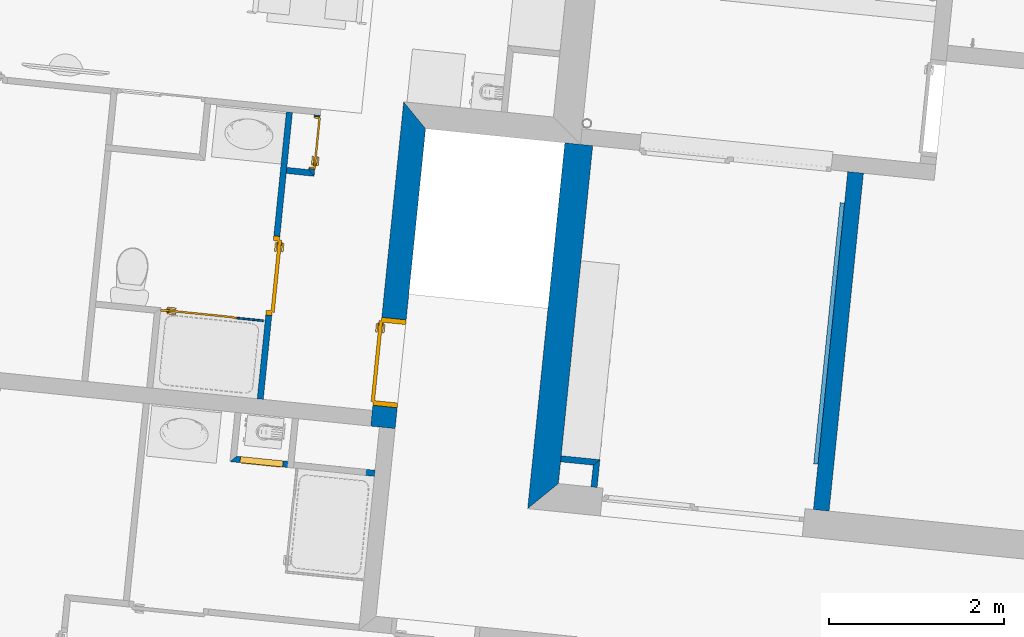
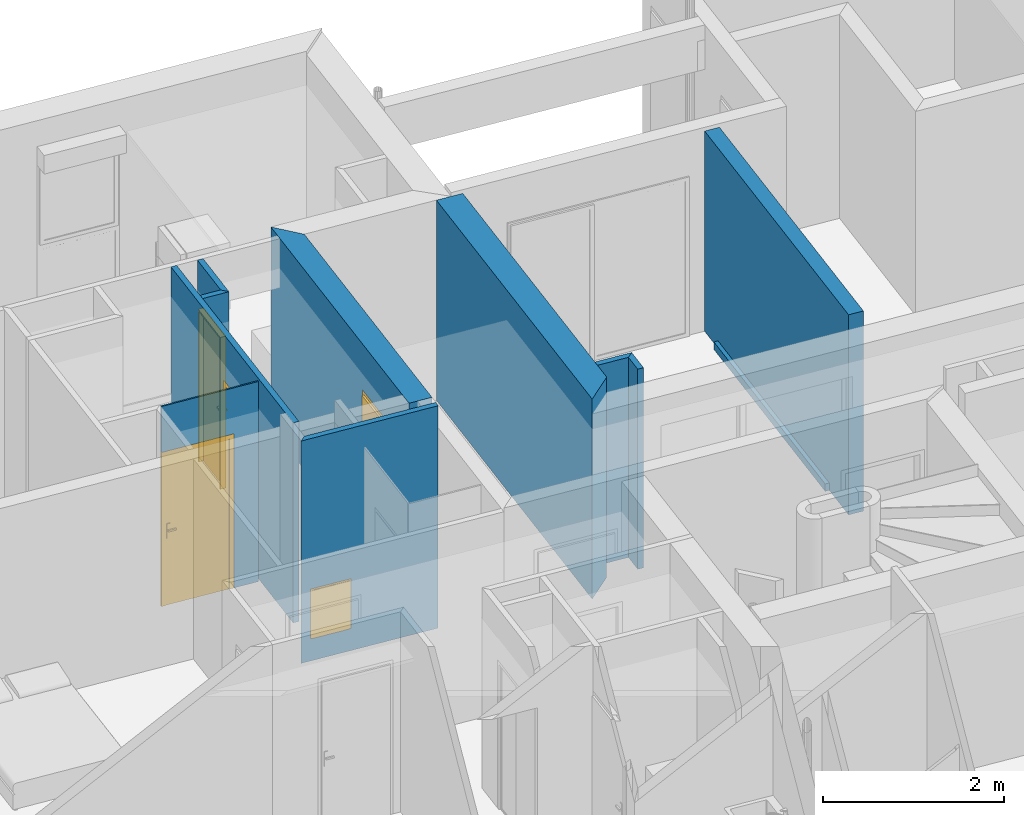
# One storey, part 70 of 171: 11 walls, 5 doors, 5 openings.
"""IFC2X3 building model written with IfcOpenShell, lengths in millimetres."""

from ifc_helpers import new_model, entity, si_unit, converted_unit, derived_unit, money_unit, direction, frame, origin_with_axes, origin_2d_with_axis, place, context, subcontext, project, spatial, polyline, rectangle, outline, extrude, faceted_brep, source, transform, mapped, material, layer, layer_set, layer_usage, type_object, element, fill, save


model = new_model("IFC2X3")

# Units and contexts
model_context = context("Model", 3, precision=0.01, world=origin_with_axes(), true_north=direction((0.0, 1.0)))
body_context = subcontext(model_context, "Body", "Model", "MODEL_VIEW")
ifc_project = project(units=[si_unit("LENGTHUNIT", "METRE", prefix="MILLI"), si_unit("AREAUNIT", "SQUARE_METRE"), si_unit("VOLUMEUNIT", "CUBIC_METRE"), converted_unit("PLANEANGLEUNIT", "DEGREE", entity("IfcPlaneAngleMeasure", 0.0174532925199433), si_unit("PLANEANGLEUNIT", "RADIAN"), dimensions=[0, 0, 0, 0, 0, 0, 0]), money_unit("USD"), converted_unit("TIMEUNIT", "Year", entity("IfcTimeMeasure", 31557600.0), si_unit("TIMEUNIT", "SECOND"), dimensions=[0, 0, 1, 0, 0, 0, 0]), si_unit("MASSUNIT", "GRAM", prefix="KILO"), si_unit("THERMODYNAMICTEMPERATUREUNIT", "DEGREE_CELSIUS"), si_unit("LUMINOUSINTENSITYUNIT", "LUMEN"), si_unit("ENERGYUNIT", "JOULE", prefix="MEGA"), derived_unit("THERMALCONDUCTANCEUNIT", [(si_unit("POWERUNIT", "WATT"), 1), (si_unit("LENGTHUNIT", "METRE"), -1), (si_unit("THERMODYNAMICTEMPERATUREUNIT", "KELVIN"), -1)]), derived_unit("SPECIFICHEATCAPACITYUNIT", [(si_unit("ENERGYUNIT", "JOULE"), 1), (si_unit("MASSUNIT", "GRAM", prefix="KILO"), -1), (si_unit("THERMODYNAMICTEMPERATUREUNIT", "KELVIN"), -1)]), derived_unit("MASSDENSITYUNIT", [(si_unit("MASSUNIT", "GRAM", prefix="KILO"), 1), (si_unit("VOLUMEUNIT", "CUBIC_METRE"), -1)])], contexts=[model_context])

# Site, building, storey
site_placement = place(None, origin_with_axes())
site = spatial("IfcSite", under=ifc_project, at=site_placement, Name="Site", CompositionType="ELEMENT")
building_placement = place(site_placement, origin_with_axes())
building = spatial("IfcBuilding", under=site, at=building_placement, Name="Bâtiment", CompositionType="ELEMENT")
storey_placement = place(building_placement, frame((0.0, 0.0, 3000.0), z_axis=(0.0, 0.0, 1.0), x_axis=(1.0, 0.0, 0.0)))
storey = spatial("IfcBuildingStorey", under=building, at=storey_placement, Name="rdc", CompositionType="ELEMENT", Elevation=3000.0)

# Walls
ifc_material_1 = material(Name="Hachure solide 268963992")
ifc_layer_1 = layer(ifc_material_1, 50.0, ventilated="UNKNOWN")
ifc_layer_set_1 = layer_set([ifc_layer_1], Name="Cloison 50")
ifc_layer_usage_1 = layer_usage(ifc_layer_set_1, "AXIS2", "NEGATIVE", 50.0)
wall_type_1 = type_object("IfcWallType", Name="Cloison 50 50", PredefinedType="NOTDEFINED")
wall_1_placement = place(storey_placement, frame((2228875.15076857, -611964.3588203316, 0.0), z_axis=(0.0, 0.0, 1.0), x_axis=(0.1011032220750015, 0.9948759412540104, 0.0)))
element("IfcWallStandardCase", 1, at=wall_1_placement, inside=storey, type_object=wall_type_1, material=ifc_layer_usage_1, Name="Mur-170", context=body_context, shape_type="SweptSolid", body=[
    extrude(outline(polyline([(0.0, 0.0), (3000.000000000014, -1.13686837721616e-10), (3000.000000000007, 49.99999999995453), (0.0, 49.99999999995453), (0.0, 0.0)])), origin_with_axes(), (0.0, 0.0, 1.0), 100.0),
])
ifc_material_2 = material(Name="Parpaing 314940890")
ifc_layer_2 = layer(ifc_material_2, 180.0, ventilated="UNKNOWN")
ifc_layer_set_2 = layer_set([ifc_layer_2], Name="Beton  18 0018356637")
ifc_layer_usage_2 = layer_usage(ifc_layer_set_2, "AXIS2", "POSITIVE", 0.0)
wall_type_2 = type_object("IfcWallType", Name="Beton  18 0018356637 180", PredefinedType="NOTDEFINED")
wall_2_placement = place(storey_placement, frame((2229233.240255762, -608440.6871663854, 0.0), z_axis=(0.0, 0.0, 1.0), x_axis=(-0.1011032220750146, -0.9948759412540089, 0.0)))
element("IfcWallStandardCase", 2, at=wall_2_placement, inside=storey, type_object=wall_type_2, material=ifc_layer_usage_2, Name="Mur-142", context=body_context, shape_type="SweptSolid", body=[
    extrude(outline(polyline([(180.0000008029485, 0.0), (4061.625351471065, -1.13686837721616e-10), (4061.625342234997, 179.99999999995), (180.017002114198, 180.0000000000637), (180.0000008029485, 0.0)])), origin_with_axes(), (0.0, 0.0, 1.0), 2700.0),
])

# Wall, opening, door
ifc_layer_3 = layer(ifc_material_1, 70.0, ventilated="UNKNOWN")
ifc_layer_set_3 = layer_set([ifc_layer_3], Name="Cloison 70 0826278243")
ifc_layer_usage_3 = layer_usage(ifc_layer_set_3, "AXIS2", "POSITIVE", -70.0)
wall_type_3 = type_object("IfcWallType", Name="Cloison 70 0826278243 70", PredefinedType="NOTDEFINED")
wall_3_placement = place(storey_placement, frame((2223053.341678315, -608596.5389679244, 0.0), z_axis=(0.0, 0.0, 1.0), x_axis=(0.1012099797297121, 0.9948650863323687, 0.0)))
wall_3 = element("IfcWallStandardCase", 3, at=wall_3_placement, inside=storey, type_object=wall_type_3, material=ifc_layer_usage_3, Name="Mur-149", context=body_context, shape_type="SweptSolid", body=[
    extrude(outline(polyline([(-69.99855074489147, -70.00000000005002), (630.7254238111, -70.00000000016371), (630.7179122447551, 0.0), (0.0, 0.0), (-69.99855074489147, -70.00000000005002)])), origin_with_axes(), (0.0, 0.0, 1.0), 2700.0),
])
opening_1_placement = place(wall_3_placement, frame((311.936652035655, 2.273736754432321e-10, 0.0), z_axis=(0.0, 0.0, 1.0), x_axis=(1.0, 0.0, 0.0)))
opening_1 = element("IfcOpeningElement", 4, at=opening_1_placement, cuts=wall_3, Name="Por-274", context=body_context, shape_type="SweptSolid", body=[
    extrude(rectangle(XDim=599.9999999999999, YDim=2050.0, at=origin_2d_with_axis()), frame((0.0, 69.99999999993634, 1025.0), z_axis=(0.0, 1.0, 0.0), x_axis=(1.0, 0.0, 0.0)), (0.0, 0.0, -1.0), 140.0),
])
door_style = type_object("IfcDoorStyle", Name="Porte_1v", ConstructionType="NOTDEFINED", OperationType="NOTDEFINED", ParameterTakesPrecedence=False, Sizeable=False)
shared_shape_1 = source(origin_with_axes(), body_context, "Body", "Brep", [
    faceted_brep([(-300.0, 0.0, 0.0), (-300.0, 0.0, 2050.0), (300.0, 0.0, 2050.0), (300.0, 0.0, 0.0), (290.0, 0.0, 0.0), (290.0, 0.0, 2040.0), (-290.0, 0.0, 2040.0), (-290.0, 0.0, 0.0), (-300.0, -70.0, 0.0), (-300.0, -70.0, 2050.0), (300.0, -70.0, 2050.0), (300.0, -70.0, 0.0), (279.9999999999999, -70.0, 0.0), (279.9999999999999, -15.0, 0.0), (290.0, -15.0, 0.0), (290.0, -15.0, 2040.0), (-290.0, -15.0, 2040.0), (-290.0, -15.0, 0.0), (-279.9999999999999, -15.0, 0.0), (-279.9999999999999, -70.0, 0.0), (-279.9999999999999, -70.0, 2030.0), (279.9999999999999, -70.0, 2030.0), (279.9999999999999, -15.0, 2030.0), (-279.9999999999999, -15.0, 2030.0)], [[[0, 1, 2, 3, 4, 5, 6, 7]], [[8, 9, 1, 0]], [[9, 10, 2, 1]], [[10, 11, 3, 2]], [[3, 11, 12, 13, 14, 4]], [[5, 4, 14, 15]], [[6, 5, 15, 16]], [[7, 6, 16, 17]], [[0, 7, 17, 18, 19, 8]], [[19, 20, 21, 12, 11, 10, 9, 8]], [[22, 13, 12, 21]], [[17, 16, 15, 14, 13, 22, 23, 18]], [[18, 23, 20, 19]], [[23, 22, 21, 20]]]),
    faceted_brep([(224.9999999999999, -15.0, 900.0), (224.9999999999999, -15.0, 1100.0), (264.9999999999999, -15.0, 1100.0), (264.9999999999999, -15.0, 900.0), (224.9999999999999, -25.0, 900.0), (224.9999999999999, -25.0, 1100.0), (264.9999999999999, -25.0, 1100.0), (264.9999999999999, -25.0, 900.0)], [[[0, 1, 2, 3]], [[0, 4, 5, 1]], [[1, 5, 6, 2]], [[2, 6, 7, 3]], [[3, 7, 4, 0]], [[7, 6, 5, 4]]]),
    faceted_brep([(154.9999999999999, -25.0, 1000.0), (154.9999999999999, -25.0, 1020.0), (254.9999999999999, -25.0, 1020.0), (254.9999999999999, -25.0, 1000.0), (154.9999999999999, -45.0, 1000.0), (154.9999999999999, -45.0, 1020.0), (254.9999999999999, -45.0, 1020.0), (254.9999999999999, -45.0, 1000.0)], [[[0, 1, 2, 3]], [[0, 4, 5, 1]], [[1, 5, 6, 2]], [[2, 6, 7, 3]], [[3, 7, 4, 0]], [[7, 6, 5, 4]]]),
    faceted_brep([(224.9999999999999, 15.0, 900.0), (224.9999999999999, 15.0, 1100.0), (264.9999999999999, 15.0, 1100.0), (264.9999999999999, 15.0, 900.0), (224.9999999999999, 5.000000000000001, 900.0), (224.9999999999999, 5.000000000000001, 1100.0), (264.9999999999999, 5.000000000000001, 1100.0), (264.9999999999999, 5.000000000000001, 900.0)], [[[0, 1, 2, 3]], [[0, 4, 5, 1]], [[1, 5, 6, 2]], [[2, 6, 7, 3]], [[3, 7, 4, 0]], [[7, 6, 5, 4]]]),
    faceted_brep([(154.9999999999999, 35.0, 1000.0), (154.9999999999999, 35.0, 1020.0), (254.9999999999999, 35.0, 1020.0), (254.9999999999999, 35.0, 1000.0), (154.9999999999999, 15.0, 1000.0), (154.9999999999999, 15.0, 1020.0), (254.9999999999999, 15.0, 1020.0), (254.9999999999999, 15.0, 1000.0)], [[[0, 1, 2, 3]], [[0, 4, 5, 1]], [[1, 5, 6, 2]], [[2, 6, 7, 3]], [[3, 7, 4, 0]], [[7, 6, 5, 4]]]),
    faceted_brep([(290.0, 5.000000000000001, 0.0), (290.0, -15.0, 0.0), (-290.0, -15.0, 0.0), (-290.0, 5.000000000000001, 0.0), (290.0, 5.000000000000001, 2040.0), (290.0, -15.0, 2040.0), (-290.0, -15.0, 2040.0), (-290.0, 5.000000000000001, 2040.0)], [[[0, 1, 2, 3]], [[4, 5, 1, 0]], [[1, 5, 6, 2]], [[3, 2, 6, 7]], [[0, 3, 7, 4]], [[7, 6, 5, 4]]]),
])
door_1_placement = place(opening_1_placement, frame((289.9999999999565, 1.13686837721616e-10, 0.0), z_axis=(0.0, 0.0, 1.0), x_axis=(-1.0, 0.0, 0.0)))
door_1 = element("IfcDoor", 5, at=door_1_placement, inside=storey, type_object=door_style, Name="Por-274", OverallHeight=2040.0, OverallWidth=580.0, context=body_context, shape_type="MappedRepresentation", body=[
    mapped(shared_shape_1, transform((290.0000000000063, 69.99999999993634, 0.0))),
])
fill(opening_1, door_1)

ifc_layer_usage_4 = layer_usage(ifc_layer_set_3, "AXIS2", "POSITIVE", -70.0)
wall_4_placement = place(storey_placement, frame((2222447.39972285, -611394.7164010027, 0.0), z_axis=(0.0, 0.0, 1.0), x_axis=(0.1011032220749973, 0.9948759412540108, 0.0)))
wall_4 = element("IfcWallStandardCase", 6, at=wall_4_placement, inside=storey, type_object=wall_type_3, material=ifc_layer_usage_4, Name="Mur-149", context=body_context, shape_type="SweptSolid", body=[
    extrude(outline(polyline([(179.9978538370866, -70.00000000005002), (3475.820000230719, -70.00000000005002), (3475.820000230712, 0.0), (179.9978538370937, 0.0), (179.9978538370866, -70.00000000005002)])), origin_with_axes(), (0.0, 0.0, 1.0), 2700.0),
])
opening_2_placement = place(wall_4_placement, frame((1596.592464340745, -2.273736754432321e-10, 0.0), z_axis=(0.0, 0.0, 1.0), x_axis=(1.0, 0.0, 0.0)))
opening_2 = element("IfcOpeningElement", 7, at=opening_2_placement, cuts=wall_4, Name="Por-285", context=body_context, shape_type="SweptSolid", body=[
    extrude(rectangle(XDim=910.0, YDim=2080.0, at=origin_2d_with_axis()), frame((0.0, 69.99999999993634, 1040.0), z_axis=(0.0, -1.0, 0.0), x_axis=(-1.0, 0.0, 0.0)), (0.0, 0.0, 1.0), 140.0),
])
shared_shape_2 = source(origin_with_axes(), body_context, "Body", "Brep", [
    faceted_brep([(455.0, 0.0, 0.0), (415.0000000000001, 0.0, 0.0), (415.0000000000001, 0.0, 2040.0), (-415.0000000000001, 0.0, 2040.0), (-415.0000000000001, 0.0, 0.0), (-455.0, 0.0, 0.0), (-455.0, 0.0, 2080.0), (455.0, 0.0, 2080.0), (455.0, -70.0, 0.0), (400.0, -70.0, 0.0), (400.0, -15.0, 0.0), (415.0000000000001, -15.0, 0.0), (415.0000000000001, -15.0, 2040.0), (-415.0000000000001, -15.0, 2040.0), (-415.0000000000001, -15.0, 0.0), (-400.0, -15.0, 0.0), (-400.0, -70.0, 0.0), (-455.0, -70.0, 0.0), (-455.0, -70.0, 2080.0), (455.0, -70.0, 2080.0), (-400.0, -70.0, 2025.0), (400.0, -70.0, 2025.0), (400.0, -15.0, 2025.0), (-400.0, -15.0, 2025.0)], [[[0, 1, 2, 3, 4, 5, 6, 7]], [[0, 8, 9, 10, 11, 1]], [[1, 11, 12, 2]], [[2, 12, 13, 3]], [[3, 13, 14, 4]], [[5, 4, 14, 15, 16, 17]], [[18, 6, 5, 17]], [[19, 7, 6, 18]], [[8, 0, 7, 19]], [[9, 8, 19, 18, 17, 16, 20, 21]], [[10, 9, 21, 22]], [[11, 10, 22, 23, 15, 14, 13, 12]], [[23, 20, 16, 15]], [[22, 21, 20, 23]]]),
    faceted_brep([(-350.0000000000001, -15.0, 900.0), (-390.0, -15.0, 900.0), (-390.0, -15.0, 1100.0), (-350.0000000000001, -15.0, 1100.0), (-350.0000000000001, -25.0, 900.0), (-390.0, -25.0, 900.0), (-390.0, -25.0, 1100.0), (-350.0000000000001, -25.0, 1100.0)], [[[0, 1, 2, 3]], [[1, 0, 4, 5]], [[2, 1, 5, 6]], [[3, 2, 6, 7]], [[0, 3, 7, 4]], [[5, 4, 7, 6]]]),
    faceted_brep([(-280.0, -25.0, 1000.0), (-380.0, -25.0, 1000.0), (-380.0, -25.0, 1020.0), (-280.0, -25.0, 1020.0), (-280.0, -45.0, 1000.0), (-380.0, -45.0, 1000.0), (-380.0, -45.0, 1020.0), (-280.0, -45.0, 1020.0)], [[[0, 1, 2, 3]], [[1, 0, 4, 5]], [[2, 1, 5, 6]], [[3, 2, 6, 7]], [[0, 3, 7, 4]], [[5, 4, 7, 6]]]),
    faceted_brep([(-350.0000000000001, 35.0, 900.0), (-390.0, 35.0, 900.0), (-390.0, 35.0, 1100.0), (-350.0000000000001, 35.0, 1100.0), (-350.0000000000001, 25.0, 900.0), (-390.0, 25.0, 900.0), (-390.0, 25.0, 1100.0), (-350.0000000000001, 25.0, 1100.0)], [[[0, 1, 2, 3]], [[1, 0, 4, 5]], [[2, 1, 5, 6]], [[3, 2, 6, 7]], [[0, 3, 7, 4]], [[5, 4, 7, 6]]]),
    faceted_brep([(-280.0, 55.00000000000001, 1000.0), (-380.0, 55.00000000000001, 1000.0), (-380.0, 55.00000000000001, 1020.0), (-280.0, 55.00000000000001, 1020.0), (-280.0, 35.0, 1000.0), (-380.0, 35.0, 1000.0), (-380.0, 35.0, 1020.0), (-280.0, 35.0, 1020.0)], [[[0, 1, 2, 3]], [[1, 0, 4, 5]], [[2, 1, 5, 6]], [[3, 2, 6, 7]], [[0, 3, 7, 4]], [[5, 4, 7, 6]]]),
    faceted_brep([(-415.0000000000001, 25.0, 0.0), (415.0000000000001, 25.0, 0.0), (415.0000000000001, -15.0, 0.0), (-415.0000000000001, -15.0, 0.0), (-415.0000000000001, 25.0, 2040.0), (415.0000000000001, 25.0, 2040.0), (415.0000000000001, -15.0, 2040.0), (-415.0000000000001, -15.0, 2040.0)], [[[0, 1, 2, 3]], [[0, 4, 5, 1]], [[1, 5, 6, 2]], [[3, 2, 6, 7]], [[4, 0, 3, 7]], [[5, 4, 7, 6]]]),
])
door_2_placement = place(opening_2_placement, frame((414.9999999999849, -2.273736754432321e-10, 0.0), z_axis=(0.0, 0.0, 1.0), x_axis=(-1.0, 0.0, 0.0)))
door_2 = element("IfcDoor", 8, at=door_2_placement, inside=storey, type_object=door_style, Name="Por-285", OverallHeight=2040.0, OverallWidth=830.0, context=body_context, shape_type="MappedRepresentation", body=[
    mapped(shared_shape_2, transform((415.0000000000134, 69.99999999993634, 0.0))),
])
fill(opening_2, door_2)

# Wall
ifc_layer_usage_5 = layer_usage(ifc_layer_set_3, "AXIS2", "POSITIVE", -70.0)
wall_5_placement = place(storey_placement, frame((2222735.051512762, -608564.1652141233, 0.0), z_axis=(0.0, 0.0, 1.0), x_axis=(0.9948671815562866, -0.1011893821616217, 0.0)))
element("IfcWallStandardCase", 9, at=wall_5_placement, inside=storey, type_object=wall_type_3, material=ifc_layer_usage_5, Name="Mur-149", context=body_context, shape_type="SweptSolid", body=[
    extrude(outline(polyline([(70.00606255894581, -70.00000000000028), (389.9308708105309, -70.00000000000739), (319.9323200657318, 0.0), (70.00000026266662, 0.0), (70.00606255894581, -70.00000000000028)])), origin_with_axes(), (0.0, 0.0, 1.0), 2700.0),
])

# Wall, opening, door
ifc_layer_usage_6 = layer_usage(ifc_layer_set_3, "AXIS2", "NEGATIVE", 70.0)
wall_6_placement = place(storey_placement, frame((2222153.765378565, -611934.1010089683, 0.0), z_axis=(0.0, 0.0, 1.0), x_axis=(0.9948529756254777, -0.1013289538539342, 0.0)))
wall_6 = element("IfcWallStandardCase", 10, at=wall_6_placement, inside=storey, type_object=wall_type_3, material=ifc_layer_usage_6, Name="Mur-148", context=body_context, shape_type="SweptSolid", body=[
    extrude(outline(polyline([(1.673470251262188e-07, 0.0), (1660.003879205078, 0.0), (1659.98799641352, 70.00000000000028), (69.98411917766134, 70.00000000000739), (1.673470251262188e-07, 0.0)])), origin_with_axes(), (0.0, 0.0, 1.0), 3000.0),
])
opening_3_placement = place(wall_6_placement, frame((360.1198190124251, 0.0, 299.9999999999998), z_axis=(0.0, 0.0, 1.0), x_axis=(1.0, 0.0, 0.0)))
opening_3 = element("IfcOpeningElement", 11, at=opening_3_placement, cuts=wall_6, Name="Por-249", context=body_context, shape_type="SweptSolid", body=[
    extrude(rectangle(XDim=489.9999985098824, YDim=669.9999999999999, at=origin_2d_with_axis()), frame((-7.449898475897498e-07, 70.00000000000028, 334.9999999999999), z_axis=(0.0, 1.0, 0.0), x_axis=(1.0, 0.0, 0.0)), (0.0, 0.0, -1.0), 140.0),
])
shared_shape_3 = source(origin_with_axes(), body_context, "Body", "Brep", [
    faceted_brep([(-245.0, 0.0, 0.0), (-245.0, 0.0, 670.0), (245.0, 0.0, 670.0), (245.0, 0.0, 0.0), (225.0, 0.0, 0.0), (225.0, 0.0, 650.0), (-225.0, 0.0, 650.0), (-225.0, 0.0, 0.0), (-245.0, -70.0, 0.0), (-245.0, -70.0, 670.0), (245.0, -70.0, 670.0), (245.0, -70.0, 0.0), (210.0, -70.0, 0.0), (210.0, -15.0, 0.0), (225.0, -15.0, 0.0), (225.0, -15.0, 650.0), (-225.0, -15.0, 650.0), (-225.0, -15.0, 0.0), (-210.0, -15.0, 0.0), (-210.0, -70.0, 0.0), (-210.0, -70.0, 635.0), (210.0, -70.0, 635.0), (210.0, -15.0, 635.0), (-210.0, -15.0, 635.0)], [[[0, 1, 2, 3, 4, 5, 6, 7]], [[8, 9, 1, 0]], [[9, 10, 2, 1]], [[10, 11, 3, 2]], [[3, 11, 12, 13, 14, 4]], [[5, 4, 14, 15]], [[6, 5, 15, 16]], [[7, 6, 16, 17]], [[0, 7, 17, 18, 19, 8]], [[19, 20, 21, 12, 11, 10, 9, 8]], [[22, 13, 12, 21]], [[17, 16, 15, 14, 13, 22, 23, 18]], [[18, 23, 20, 19]], [[23, 22, 21, 20]]]),
    faceted_brep([(225.0, 5.000000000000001, 0.0), (225.0, -15.0, 0.0), (-225.0, -15.0, 0.0), (-225.0, 5.000000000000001, 0.0), (225.0, 5.000000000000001, 650.0), (225.0, -15.0, 650.0), (-225.0, -15.0, 650.0), (-225.0, 5.000000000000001, 650.0)], [[[0, 1, 2, 3]], [[4, 5, 1, 0]], [[1, 5, 6, 2]], [[3, 2, 6, 7]], [[0, 3, 7, 4]], [[7, 6, 5, 4]]]),
])
door_3_placement = place(opening_3_placement, frame((225.0000000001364, 0.0, 0.0), z_axis=(0.0, 0.0, 1.0), x_axis=(-1.0, 0.0, 0.0)))
door_3 = element("IfcDoor", 12, at=door_3_placement, inside=storey, type_object=door_style, Name="Por-249", OverallHeight=650.0, OverallWidth=450.0, context=body_context, shape_type="MappedRepresentation", body=[
    mapped(shared_shape_3, transform((225.0000000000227, 0.0, 0.0))),
])
fill(opening_3, door_3)

# Walls
ifc_layer_usage_7 = layer_usage(ifc_layer_set_3, "AXIS2", "NEGATIVE", 70.0)
wall_7_placement = place(storey_placement, frame((2226350.330139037, -612230.2591329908, 0.0), z_axis=(0.0, 0.0, 1.0), x_axis=(0.1011031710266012, 0.994875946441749, 0.0)))
element("IfcWallStandardCase", 13, at=wall_7_placement, inside=storey, type_object=wall_type_3, material=ifc_layer_usage_7, Name="Mur-149", context=body_context, shape_type="SweptSolid", body=[
    extrude(outline(polyline([(0.0, 0.0), (319.9999771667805, 0.0), (249.9999807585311, 70.00000000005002), (0.0, 70.00000000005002), (0.0, 0.0)])), origin_with_axes(), (0.0, 0.0, 1.0), 2700.0),
])
ifc_layer_usage_8 = layer_usage(ifc_layer_set_3, "AXIS2", "NEGATIVE", 70.0)
wall_8_placement = place(storey_placement, frame((2226382.683151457, -611911.8988528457, 0.0), z_axis=(0.0, 0.0, 1.0), x_axis=(-0.9948759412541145, 0.101103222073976, 0.0)))
element("IfcWallStandardCase", 14, at=wall_8_placement, inside=storey, type_object=wall_type_3, material=ifc_layer_usage_8, Name="Mur-149", context=body_context, shape_type="SweptSolid", body=[
    extrude(outline(polyline([(0.0, 0.0), (445.0000000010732, 0.0), (445.0000000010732, 70.00000000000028), (69.99999640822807, 69.99999999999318), (0.0, 0.0)])), origin_with_axes(), (0.0, 0.0, 1.0), 2700.0),
])
ifc_material_3 = material(Name="Parpaing 312445824")
ifc_layer_4 = layer(ifc_material_3, 180.0, ventilated="UNKNOWN")
ifc_material_4 = material(Name="Isolant styromousse 301821074")
ifc_layer_5 = layer(ifc_material_4, 140.0, ventilated="UNKNOWN")
ifc_layer_set_4 = layer_set([ifc_layer_4, ifc_layer_5], Name="isol int 18+14")
ifc_layer_usage_9 = layer_usage(ifc_layer_set_4, "AXIS2", "POSITIVE", 0.0)
wall_type_4 = type_object("IfcWallType", Name="isol int 18+14 320", PredefinedType="NOTDEFINED")
wall_9_placement = place(storey_placement, frame((2225981.724234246, -608290.890870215, 0.0), z_axis=(0.0, 0.0, 1.0), x_axis=(-0.1011032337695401, -0.994875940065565, 0.0)))
element("IfcWallStandardCase", 15, at=wall_9_placement, inside=storey, type_object=wall_type_4, material=ifc_layer_usage_9, Name="Mur-142", context=body_context, shape_type="SweptSolid", body=[
    extrude(outline(polyline([(0.0, 0.0), (4201.915502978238, 0.0), (3881.915482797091, 319.9999999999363), (-3.761542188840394e-06, 319.9999999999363), (0.0, 0.0)])), origin_with_axes(), (0.0, 0.0, 1.0), 2700.0),
])

# Wall, opening, door
ifc_layer_6 = layer(ifc_material_3, 180.0, ventilated="UNKNOWN")
ifc_layer_7 = layer(ifc_material_4, 100.0, ventilated="UNKNOWN")
ifc_layer_set_5 = layer_set([ifc_layer_6, ifc_layer_7], Name="isol int 18+10 0018356637")
ifc_layer_usage_10 = layer_usage(ifc_layer_set_5, "AXIS2", "NEGATIVE", 0.0)
wall_type_5 = type_object("IfcWallType", Name="isol int 18+10 0018356637 280", PredefinedType="NOTDEFINED")
wall_10_placement = place(storey_placement, frame((2224389.922679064, -608129.1257098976, 0.0), z_axis=(0.0, 0.0, 1.0), x_axis=(-0.1011032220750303, -0.9948759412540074, 0.0)))
wall_10 = element("IfcWallStandardCase", 16, at=wall_10_placement, inside=storey, type_object=wall_type_5, material=ifc_layer_usage_10, Name="Mur-142", context=body_context, shape_type="SweptSolid", body=[
    extrude(outline(polyline([(-279.9999999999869, -279.9999999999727), (3445.255088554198, -279.9999999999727), (3445.255088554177, 0.0), (0.0, 0.0), (-279.9999999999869, -279.9999999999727)])), origin_with_axes(), (0.0, 0.0, 1.0), 2700.0),
])
opening_4_placement = place(wall_10_placement, frame((2700.957525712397, 1.13686837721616e-10, 0.0), z_axis=(0.0, 0.0, 1.0), x_axis=(1.0, 0.0, 0.0)))
opening_4 = element("IfcOpeningElement", 17, at=opening_4_placement, cuts=wall_10, Name="Por-279", context=body_context, shape_type="SweptSolid", body=[
    extrude(rectangle(XDim=1010.00001192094, YDim=2080.0, at=origin_2d_with_axis()), frame((5.960487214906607e-06, 279.9999999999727, 1040.0), z_axis=(0.0, 1.0, 0.0), x_axis=(1.0, 0.0, 0.0)), (0.0, 0.0, -1.0), 560.0),
])
shared_shape_4 = source(origin_with_axes(), body_context, "Body", "Brep", [
    faceted_brep([(-505.0, 0.0, 0.0), (-505.0, 0.0, 2080.0), (505.0, 0.0, 2080.0), (505.0, 0.0, 0.0), (465.0, 0.0, 0.0), (464.9999999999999, 0.0, 2040.0), (-464.9999999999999, 0.0, 2040.0), (-465.0, 0.0, 0.0), (-505.0, -280.0, 0.0), (-505.0, -280.0, 2080.0), (505.0, -280.0, 2080.0), (505.0, -280.0, 0.0), (450.0, -280.0, 0.0), (450.0, -15.0, 0.0), (465.0, -15.0, 0.0), (464.9999999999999, -15.0, 2040.0), (-464.9999999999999, -15.0, 2040.0), (-465.0, -15.0, 0.0), (-450.0, -15.0, 0.0), (-450.0, -280.0, 0.0), (-450.0, -280.0, 2025.0), (450.0, -280.0, 2025.0), (450.0, -15.0, 2025.0), (-450.0, -15.0, 2025.0)], [[[0, 1, 2, 3, 4, 5, 6, 7]], [[8, 9, 1, 0]], [[9, 10, 2, 1]], [[10, 11, 3, 2]], [[3, 11, 12, 13, 14, 4]], [[5, 4, 14, 15]], [[6, 5, 15, 16]], [[7, 6, 16, 17]], [[0, 7, 17, 18, 19, 8]], [[19, 20, 21, 12, 11, 10, 9, 8]], [[22, 13, 12, 21]], [[17, 16, 15, 14, 13, 22, 23, 18]], [[18, 23, 20, 19]], [[23, 22, 21, 20]]]),
    faceted_brep([(400.0, -15.0, 900.0), (400.0, -15.0, 1100.0), (440.0, -15.0, 1100.0), (440.0, -15.0, 900.0), (400.0, -25.0, 900.0), (400.0, -25.0, 1100.0), (440.0, -25.0, 1100.0), (440.0, -25.0, 900.0)], [[[0, 1, 2, 3]], [[0, 4, 5, 1]], [[1, 5, 6, 2]], [[2, 6, 7, 3]], [[3, 7, 4, 0]], [[7, 6, 5, 4]]]),
    faceted_brep([(329.9999999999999, -25.0, 1000.0), (329.9999999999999, -25.0, 1020.0), (430.0, -25.0, 1020.0), (430.0, -25.0, 1000.0), (329.9999999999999, -45.0, 1000.0), (329.9999999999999, -45.0, 1020.0), (430.0, -45.0, 1020.0), (430.0, -45.0, 1000.0)], [[[0, 1, 2, 3]], [[0, 4, 5, 1]], [[1, 5, 6, 2]], [[2, 6, 7, 3]], [[3, 7, 4, 0]], [[7, 6, 5, 4]]]),
    faceted_brep([(400.0, 35.0, 900.0), (400.0, 35.0, 1100.0), (440.0, 35.0, 1100.0), (440.0, 35.0, 900.0), (400.0, 25.0, 900.0), (400.0, 25.0, 1100.0), (440.0, 25.0, 1100.0), (440.0, 25.0, 900.0)], [[[0, 1, 2, 3]], [[0, 4, 5, 1]], [[1, 5, 6, 2]], [[2, 6, 7, 3]], [[3, 7, 4, 0]], [[7, 6, 5, 4]]]),
    faceted_brep([(329.9999999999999, 55.00000000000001, 1000.0), (329.9999999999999, 55.00000000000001, 1020.0), (430.0, 55.00000000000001, 1020.0), (430.0, 55.00000000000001, 1000.0), (329.9999999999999, 35.0, 1000.0), (329.9999999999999, 35.0, 1020.0), (430.0, 35.0, 1020.0), (430.0, 35.0, 1000.0)], [[[0, 1, 2, 3]], [[0, 4, 5, 1]], [[1, 5, 6, 2]], [[2, 6, 7, 3]], [[3, 7, 4, 0]], [[7, 6, 5, 4]]]),
    faceted_brep([(465.0, 25.0, 0.0), (465.0, -15.0, 0.0), (-465.0, -15.0, 0.0), (-465.0, 25.0, 0.0), (465.0, 25.0, 2040.0), (465.0, -15.0, 2040.0), (-465.0, -15.0, 2040.0), (-465.0, 25.0, 2040.0)], [[[0, 1, 2, 3]], [[4, 5, 1, 0]], [[1, 5, 6, 2]], [[3, 2, 6, 7]], [[0, 3, 7, 4]], [[7, 6, 5, 4]]]),
])
door_4_placement = place(opening_4_placement, frame((465.0000000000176, 0.0, 0.0), z_axis=(0.0, 0.0, 1.0), x_axis=(-1.0, 0.0, 0.0)))
door_4 = element("IfcDoor", 18, at=door_4_placement, inside=storey, type_object=door_style, Name="Por-279", OverallHeight=2040.0, OverallWidth=930.0, context=body_context, shape_type="MappedRepresentation", body=[
    mapped(shared_shape_4, transform((464.9999999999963, 280.0000000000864, 0.0))),
])
fill(opening_4, door_4)

ifc_material_5 = material(Name="Empty Fill 292498448")
ifc_layer_8 = layer(ifc_material_5, 20.0, ventilated="UNKNOWN")
ifc_layer_set_6 = layer_set([ifc_layer_8], Name="mur 2cm")
ifc_layer_usage_11 = layer_usage(ifc_layer_set_6, "AXIS2", "POSITIVE", -20.0)
wall_type_6 = type_object("IfcWallType", Name="mur 2cm 20", PredefinedType="NOTDEFINED")
wall_11_placement = place(storey_placement, frame((2221363.034404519, -610194.9660607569, 0.0), z_axis=(0.0, 0.0, 1.0), x_axis=(0.9948902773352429, -0.1009620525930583, 0.0)))
wall_11 = element("IfcWallStandardCase", 19, at=wall_11_placement, inside=storey, type_object=wall_type_6, material=ifc_layer_usage_11, Name="Mur-148", context=body_context, shape_type="SweptSolid", body=[
    extrude(outline(polyline([(-0.00173148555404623, -19.99999999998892), (1180.110441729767, -19.99999999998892), (1180.110441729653, 0.0), (-0.0008657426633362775, 0.0), (-0.00173148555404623, -19.99999999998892)])), origin_with_axes(), (0.0, 0.0, 1.0), 2700.0),
])
opening_5_placement = place(wall_11_placement, frame((440.0000000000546, 0.0, 0.0), z_axis=(0.0, 0.0, 1.0), x_axis=(1.0, 0.0, 0.0)))
opening_5 = element("IfcOpeningElement", 20, at=opening_5_placement, cuts=wall_11, Name="Por-288", context=body_context, shape_type="SweptSolid", body=[
    extrude(rectangle(XDim=880.0000119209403, YDim=2080.0, at=origin_2d_with_axis()), frame((5.960487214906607e-06, -19.99999999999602, 1040.0), z_axis=(0.0, 1.0, 0.0), x_axis=(1.0, 0.0, 0.0)), (0.0, 0.0, 1.0), 40.0),
])
shared_shape_5 = source(origin_with_axes(), body_context, "Body", "Brep", [
    faceted_brep([(440.0, 0.0, 0.0), (400.0, 0.0, 0.0), (400.0, 0.0, 2040.0), (-400.0, 0.0, 2040.0), (-400.0, 0.0, 0.0), (-440.0, 0.0, 0.0), (-440.0, 0.0, 2080.0), (440.0, 0.0, 2080.0), (440.0, -20.0, 0.0), (385.0, -20.0, 0.0), (385.0, -15.0, 0.0), (400.0, -15.0, 0.0), (400.0, -15.0, 2040.0), (-400.0, -15.0, 2040.0), (-400.0, -15.0, 0.0), (-385.0, -15.0, 0.0), (-385.0, -20.0, 0.0), (-440.0, -20.0, 0.0), (-440.0, -20.0, 2080.0), (440.0, -20.0, 2080.0), (-385.0, -20.0, 2025.0), (385.0, -20.0, 2025.0), (385.0, -15.0, 2025.0), (-385.0, -15.0, 2025.0)], [[[0, 1, 2, 3, 4, 5, 6, 7]], [[0, 8, 9, 10, 11, 1]], [[1, 11, 12, 2]], [[2, 12, 13, 3]], [[3, 13, 14, 4]], [[5, 4, 14, 15, 16, 17]], [[18, 6, 5, 17]], [[19, 7, 6, 18]], [[8, 0, 7, 19]], [[9, 8, 19, 18, 17, 16, 20, 21]], [[10, 9, 21, 22]], [[11, 10, 22, 23, 15, 14, 13, 12]], [[23, 20, 16, 15]], [[22, 21, 20, 23]]]),
    faceted_brep([(-335.0, -15.0, 900.0), (-375.0, -15.0, 900.0), (-375.0, -15.0, 1100.0), (-335.0, -15.0, 1100.0), (-335.0, -25.0, 900.0), (-375.0, -25.0, 900.0), (-375.0, -25.0, 1100.0), (-335.0, -25.0, 1100.0)], [[[0, 1, 2, 3]], [[1, 0, 4, 5]], [[2, 1, 5, 6]], [[3, 2, 6, 7]], [[0, 3, 7, 4]], [[5, 4, 7, 6]]]),
    faceted_brep([(-265.0, -25.0, 1000.0), (-365.0, -25.0, 1000.0), (-365.0, -25.0, 1020.0), (-265.0, -25.0, 1020.0), (-265.0, -45.0, 1000.0), (-365.0, -45.0, 1000.0), (-365.0, -45.0, 1020.0), (-265.0, -45.0, 1020.0)], [[[0, 1, 2, 3]], [[1, 0, 4, 5]], [[2, 1, 5, 6]], [[3, 2, 6, 7]], [[0, 3, 7, 4]], [[5, 4, 7, 6]]]),
    faceted_brep([(-335.0, 15.0, 900.0), (-375.0, 15.0, 900.0), (-375.0, 15.0, 1100.0), (-335.0, 15.0, 1100.0), (-335.0, 5.000000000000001, 900.0), (-375.0, 5.000000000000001, 900.0), (-375.0, 5.000000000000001, 1100.0), (-335.0, 5.000000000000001, 1100.0)], [[[0, 1, 2, 3]], [[1, 0, 4, 5]], [[2, 1, 5, 6]], [[3, 2, 6, 7]], [[0, 3, 7, 4]], [[5, 4, 7, 6]]]),
    faceted_brep([(-265.0, 35.0, 1000.0), (-365.0, 35.0, 1000.0), (-365.0, 35.0, 1020.0), (-265.0, 35.0, 1020.0), (-265.0, 15.0, 1000.0), (-365.0, 15.0, 1000.0), (-365.0, 15.0, 1020.0), (-265.0, 15.0, 1020.0)], [[[0, 1, 2, 3]], [[1, 0, 4, 5]], [[2, 1, 5, 6]], [[3, 2, 6, 7]], [[0, 3, 7, 4]], [[5, 4, 7, 6]]]),
    faceted_brep([(-400.0, 5.000000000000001, 0.0), (400.0, 5.000000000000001, 0.0), (400.0, -15.0, 0.0), (-400.0, -15.0, 0.0), (-400.0, 5.000000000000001, 2040.0), (400.0, 5.000000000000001, 2040.0), (400.0, -15.0, 2040.0), (-400.0, -15.0, 2040.0)], [[[0, 1, 2, 3]], [[0, 4, 5, 1]], [[1, 5, 6, 2]], [[3, 2, 6, 7]], [[4, 0, 3, 7]], [[5, 4, 7, 6]]]),
])
door_5_placement = place(opening_5_placement, frame((-399.9999999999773, 0.0, 0.0), z_axis=(0.0, 0.0, 1.0), x_axis=(1.0, 0.0, 0.0)))
door_5 = element("IfcDoor", 21, at=door_5_placement, inside=storey, type_object=door_style, Name="Por-288", OverallHeight=2040.0, OverallWidth=800.0, context=body_context, shape_type="MappedRepresentation", body=[
    mapped(shared_shape_5, transform((399.9999999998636, 0.0, 0.0))),
])
fill(opening_5, door_5)

save(model, "model.ifc")
